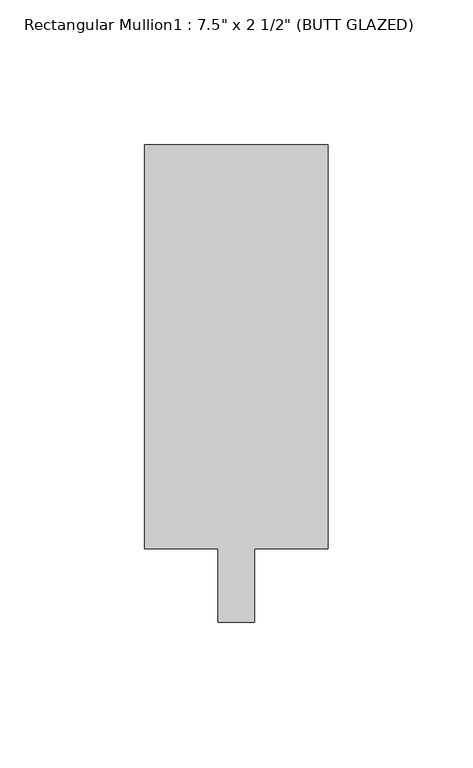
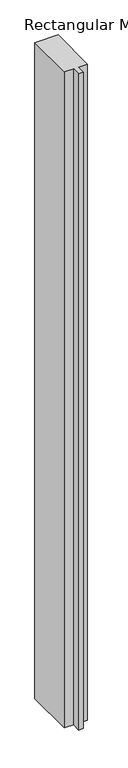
"""IFC4 building model written with IfcOpenShell, lengths in millimetres: member geometry."""

import ifcopenshell
import ifcopenshell.guid

model = None  # the IFC model being written
_history = None  # IfcOwnerHistory: only IFC2X3 demands one
_inside = {}  # id of a spatial element -> (the spatial element, [elements in it])
_under = {}  # id of a project, library or spatial element -> (it, [spatial elements below it])
_declared = {}  # id of a project -> (the project, [libraries it declares])
_typed = {}  # id of a type object -> (the type object, [elements of that type])
_made_of = {}  # id of a material, layer set ... -> (it, [elements and type objects made of it])


def new_model(schema):
    """Start an empty IFC model of exactly this schema.

    Asked for "IFC4X3", IfcOpenShell would pick the latest addendum, in which some entities
    have other attributes; the version numbers below select the first issue.
    IFC2X3 requires an IfcOwnerHistory on every rooted entity: one is made here for all.
    """
    global model, _history
    if schema == "IFC4X3":
        model = ifcopenshell.file(schema_version=(4, 3, 0, 0))
    else:
        model = ifcopenshell.file(schema=schema)
    _inside.clear()
    _under.clear()
    _declared.clear()
    _typed.clear()
    _made_of.clear()
    _history = None
    if model.schema == "IFC2X3":
        org = make("IfcOrganization", Name="unknown")
        user = make(
            "IfcPersonAndOrganization",
            ThePerson=make("IfcPerson", FamilyName="unknown"),
            TheOrganization=org,
        )
        app = make(
            "IfcApplication",
            ApplicationDeveloper=org,
            Version="unknown",
            ApplicationFullName="unknown",
            ApplicationIdentifier="unknown",
        )
        _history = make(
            "IfcOwnerHistory",
            OwningUser=user,
            OwningApplication=app,
            ChangeAction="ADDED",
            CreationDate=0,
        )
    return model


def make(cls, **values):
    """One entity of the class cls with the attributes given. An attribute that is None is left unset."""
    return model.create_entity(
        cls, **{name: value for name, value in values.items() if value is not None}
    )


def rooted(cls, **values):
    """An entity with a GlobalId (a new one), such as an element, a storey or a relation."""
    return make(cls, GlobalId=ifcopenshell.guid.new(), OwnerHistory=_history, **values)


def si_unit(unit_type, name, prefix=None):
    """IfcSIUnit, for example si_unit("LENGTHUNIT", "METRE", prefix="MILLI")."""
    return make("IfcSIUnit", UnitType=unit_type, Prefix=prefix, Name=name)


def assignment(units):
    """IfcUnitAssignment: the units of a project."""
    return None if units is None else make("IfcUnitAssignment", Units=units)


def point(xyz):
    """IfcCartesianPoint."""
    return None if xyz is None else make("IfcCartesianPoint", Coordinates=xyz)


def direction(xyz):
    """IfcDirection."""
    return None if xyz is None else make("IfcDirection", DirectionRatios=xyz)


def frame(location, z_axis=None, x_axis=None):
    """IfcAxis2Placement3D, a coordinate frame: its origin and axes. An axis left out is left unset."""
    return make(
        "IfcAxis2Placement3D",
        Location=point(location),
        Axis=direction(z_axis),
        RefDirection=direction(x_axis),
    )


def origin():
    """The frame at (0, 0, 0) with its axes left unset."""
    return frame((0.0, 0.0, 0.0))


def place(relative_to, where):
    """IfcLocalPlacement: puts the frame where relative to a parent placement (None: the world)."""
    return make(
        "IfcLocalPlacement", PlacementRelTo=relative_to, RelativePlacement=where
    )


def context(
    kind, dimensions, precision=None, world=None, true_north=None, identifier=None
):
    """IfcGeometricRepresentationContext, for example the 3D "Model" context."""
    return make(
        "IfcGeometricRepresentationContext",
        ContextIdentifier=identifier,
        ContextType=kind,
        CoordinateSpaceDimension=dimensions,
        Precision=precision,
        WorldCoordinateSystem=world,
        TrueNorth=true_north,
    )


def project(units=None, contexts=None):
    """IfcProject with its units and contexts."""
    return rooted(
        "IfcProject",
        Name="project",
        RepresentationContexts=contexts,
        UnitsInContext=assignment(units),
    )


def spatial(cls, under=None, at=None, **own):
    """A site, building, storey or space (cls), placed at a placement, below another one or the project."""
    s = rooted(cls, ObjectPlacement=at, **own)
    if under is not None:
        _under.setdefault(under.id(), (under, []))[1].append(s)
    return s


def polyline(points):
    """IfcPolyline through the points."""
    return make("IfcPolyline", Points=[point(p) for p in points])


def outline(outer, holes=None, kind="AREA"):
    """IfcArbitraryClosedProfileDef: a profile drawn as a closed curve; with holes, ...WithVoids."""
    if holes is None:
        return make("IfcArbitraryClosedProfileDef", ProfileType=kind, OuterCurve=outer)
    return make(
        "IfcArbitraryProfileDefWithVoids",
        ProfileType=kind,
        OuterCurve=outer,
        InnerCurves=holes,
    )


def extrude(swept, where, along, depth):
    """IfcExtrudedAreaSolid: the profile swept, set in the frame where, extruded along a direction by depth."""
    return make(
        "IfcExtrudedAreaSolid",
        SweptArea=swept,
        Position=where,
        ExtrudedDirection=direction(along),
        Depth=depth,
    )


def shape(context_of_items, identifier, shape_type, items):
    """IfcShapeRepresentation: the items that make up one representation, for example the "Body"."""
    return make(
        "IfcShapeRepresentation",
        ContextOfItems=context_of_items,
        RepresentationIdentifier=identifier,
        RepresentationType=shape_type,
        Items=items,
    )


def source(mapping_origin, context_of_items, identifier, shape_type, items):
    """IfcRepresentationMap: a shape defined once, which mapped items show again and again."""
    return make(
        "IfcRepresentationMap",
        MappingOrigin=mapping_origin,
        MappedRepresentation=shape(context_of_items, identifier, shape_type, items),
    )


def transform(
    local_origin,
    x_axis=None,
    y_axis=None,
    z_axis=None,
    scale=None,
    scale2=None,
    scale3=None,
    uniform=True,
):
    """IfcCartesianTransformationOperator3D, or its non-uniform kind. x_axis, y_axis, z_axis: its Axis1, 2, 3."""
    if uniform:
        return make(
            "IfcCartesianTransformationOperator3D",
            Axis1=direction(x_axis),
            Axis2=direction(y_axis),
            LocalOrigin=point(local_origin),
            Scale=scale,
            Axis3=direction(z_axis),
        )
    return make(
        "IfcCartesianTransformationOperator3DnonUniform",
        Axis1=direction(x_axis),
        Axis2=direction(y_axis),
        LocalOrigin=point(local_origin),
        Scale=scale,
        Axis3=direction(z_axis),
        Scale2=scale2,
        Scale3=scale3,
    )


def mapped(mapping_source, mapping_target):
    """IfcMappedItem: shows the shape of a source again, moved by a transform."""
    return make(
        "IfcMappedItem", MappingSource=mapping_source, MappingTarget=mapping_target
    )


def made_of(thing, what):
    """Note that an element or type object is made of a material, layer set ...; save() writes the relation."""
    if what is not None:
        _made_of.setdefault(what.id(), (what, []))[1].append(thing)
    return thing


def element(
    cls,
    number,
    at=None,
    inside=None,
    cuts=None,
    type_object=None,
    material=None,
    context=None,
    identifier="Body",
    shape_type=None,
    held_by="IfcProductDefinitionShape",
    body=None,
    shapes=None,
    **own,
):
    """One element of the class cls, such as IfcWall. Its Tag is "e" and its number.

    at: its placement. inside: the storey or other place that contains it. cuts: it is an
    opening in that element (IfcRelVoidsElement). A single representation is given by context,
    identifier, shape_type and body (its items); several are given by shapes. held_by: the class
    of the entity that holds the representations. save() writes the other relations.
    """
    e = rooted(cls, Tag="e%d" % number, ObjectPlacement=at, **own)
    if body is not None:
        shapes = [shape(context, identifier, shape_type, body)]
    if shapes is not None:
        e.Representation = make(held_by, Representations=shapes)
    if inside is not None:
        _inside.setdefault(inside.id(), (inside, []))[1].append(e)
    if cuts is not None:
        rooted(
            "IfcRelVoidsElement", RelatingBuildingElement=cuts, RelatedOpeningElement=e
        )
    if type_object is not None:
        _typed.setdefault(type_object.id(), (type_object, []))[1].append(e)
    return made_of(e, material)


def aggregate(whole, parts):
    """IfcRelAggregates: a whole, such as a stair, and the parts it consists of."""
    return rooted("IfcRelAggregates", RelatingObject=whole, RelatedObjects=parts)


def save(model, path):
    """Write the relations noted so far, then the file.

    IfcRelAggregates (storeys below a building ...), IfcRelContainedInSpatialStructure (elements
    in a storey), IfcRelDefinesByType, IfcRelAssociatesMaterial and IfcRelDeclares: one each for
    every whole, place, type object, material and project.
    """
    for whole, parts in _under.values():
        aggregate(whole, parts)
    for where, things in _inside.values():
        rooted(
            "IfcRelContainedInSpatialStructure",
            RelatedElements=things,
            RelatingStructure=where,
        )
    for kind, things in _typed.values():
        rooted("IfcRelDefinesByType", RelatedObjects=things, RelatingType=kind)
    for what, things in _made_of.values():
        rooted("IfcRelAssociatesMaterial", RelatedObjects=things, RelatingMaterial=what)
    for by, libraries in _declared.values():
        rooted("IfcRelDeclares", RelatingContext=by, RelatedDefinitions=libraries)
    model.write(path)


def member_23000f25(model_context):
    return source(origin(), model_context, "Body", "SweptSolid", [
        extrude(outline(polyline([(31.75, 165.1), (31.75, 25.4), (6.35, 25.4), (6.35, 0.0), (-6.35, 0.0), (-6.35, 25.4), (-31.75, 25.4), (-31.75, 165.1), (31.75, 165.1)])), frame((0.0, 0.0, -1904.999999), z_axis=(0.0, 0.0, 1.0), x_axis=(1.0, 0.0, 0.0)), (0.0, 0.0, 1.0), 1904.999999),
    ])


if __name__ == "__main__":
    model = new_model("IFC4")
    model_context = context("Model", 3, world=origin())
    ifc_project = project(units=[si_unit("LENGTHUNIT", "METRE", prefix="MILLI")], contexts=[model_context])
    site = spatial("IfcSite", under=ifc_project)
    building = spatial("IfcBuilding", under=site)
    placement = place(None, origin())
    member_shape = member_23000f25(model_context)
    element("IfcMember", 1, ObjectType="Rectangular Mullion1 : 7.5\" x 2 1/2\" (BUTT GLAZED)", at=placement, inside=building, context=model_context, shape_type="MappedRepresentation", body=[
        mapped(member_shape, transform((0.0, 0.0, 0.0), x_axis=(1.0, 0.0, 0.0), y_axis=(0.0, 1.0, 0.0), z_axis=(0.0, 0.0, 1.0))),
    ])
    save(model, "model.ifc")
